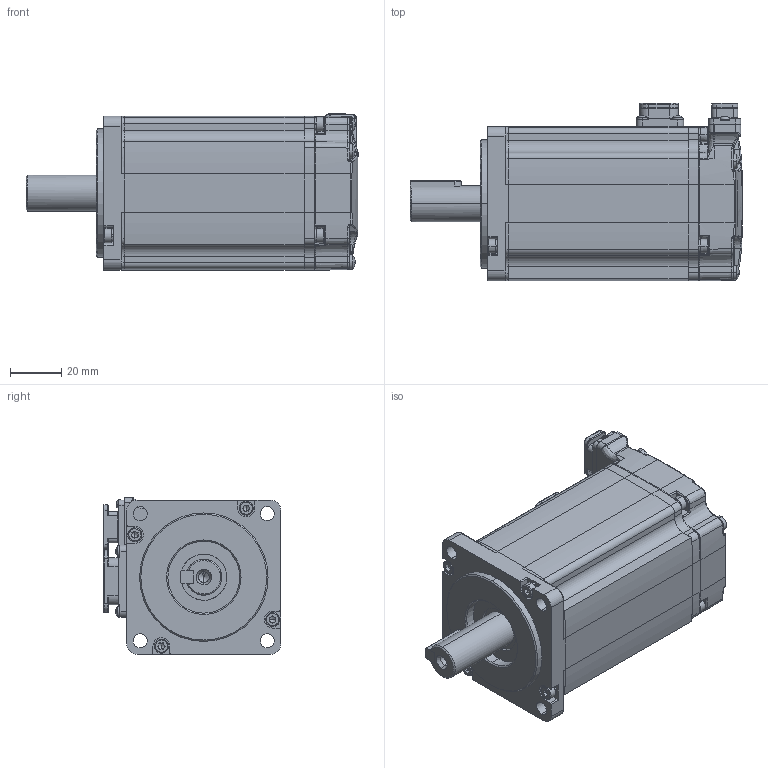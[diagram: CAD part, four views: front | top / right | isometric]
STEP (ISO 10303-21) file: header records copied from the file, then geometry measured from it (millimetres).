
FILE_DESCRIPTION (( 'STEP AP214' ), '1' );
FILE_NAME ('UMM-0004BA-B5.STEP', '2024-08-20T09:57:20', ( '' ), ( '' ), 'SwSTEP 2.0', 'SolidWorks 2022', '' );
FILE_SCHEMA (( 'AUTOMOTIVE_DESIGN' ));
Length unit declared in the file: millimetre
Products named in the file (1): UMM-0004BA-B5
Bounding box: 129.3 x 69.2 x 60.92 mm (x, y, z)
Volume: 297179.3 mm3; surface area: 78991.9 mm2
Topology: 19 solids, 20 shells, 2627 faces, 6755 edges, 4228 vertices
Faces by surface type: plane 1209, cylinder 795, bspline 412, cone 207, torus 4
Entity records: 103219 total; most frequent: CARTESIAN_POINT 32867, ORIENTED_EDGE 13380, DIRECTION 11897, EDGE_CURVE 6690, VERTEX_POINT 4228, AXIS2_PLACEMENT_3D 4101, LINE 3695, VECTOR 3695
